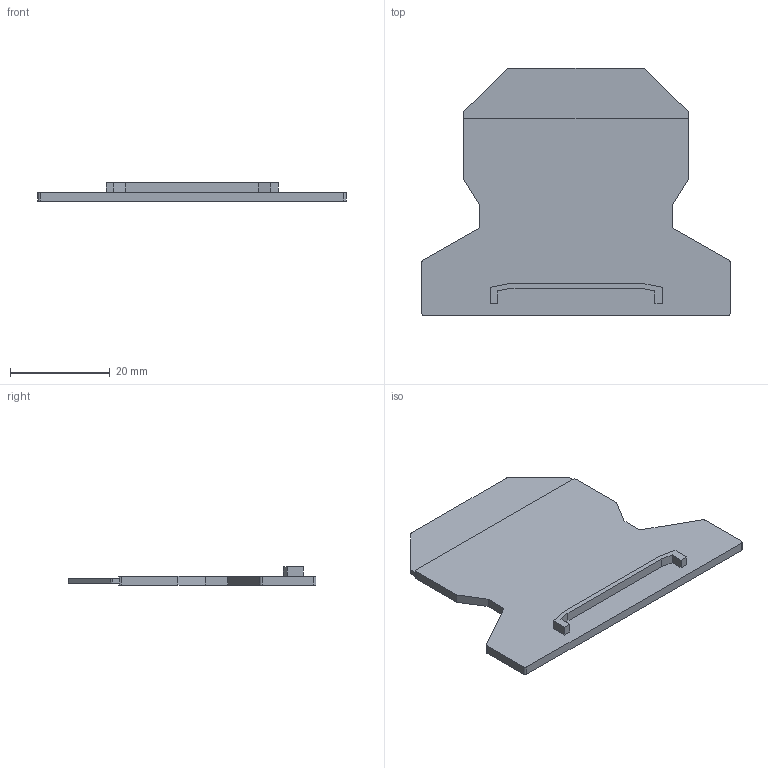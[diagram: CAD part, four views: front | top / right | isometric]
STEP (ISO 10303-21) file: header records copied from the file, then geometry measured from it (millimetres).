
FILE_DESCRIPTION((''),'2;1');
FILE_NAME('PRT0005','2022-04-18T16:14:54',('Administrator'),(''),'CREO PARAMETRIC BY PTC INC, 2017110','CREO PARAMETRIC BY PTC INC, 2017110','');
FILE_SCHEMA(('CONFIG_CONTROL_DESIGN'));
Length unit declared in the file: millimetre
Products named in the file (1): PRT0005
Bounding box: 61.67 x 49.6 x 3.7 mm (x, y, z)
Volume: 3968.3 mm3; surface area: 5181.2 mm2
Topology: 1 solids, 1 shells, 45 faces, 126 edges, 84 vertices
Faces by surface type: plane 35, cylinder 10
Entity records: 1482 total; most frequent: CARTESIAN_POINT 255, ORIENTED_EDGE 252, DIRECTION 240, EDGE_CURVE 126, VECTOR 102, LINE 102, VERTEX_POINT 84, AXIS2_PLACEMENT_3D 69
